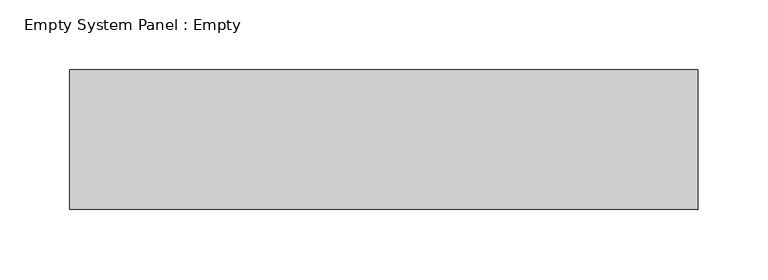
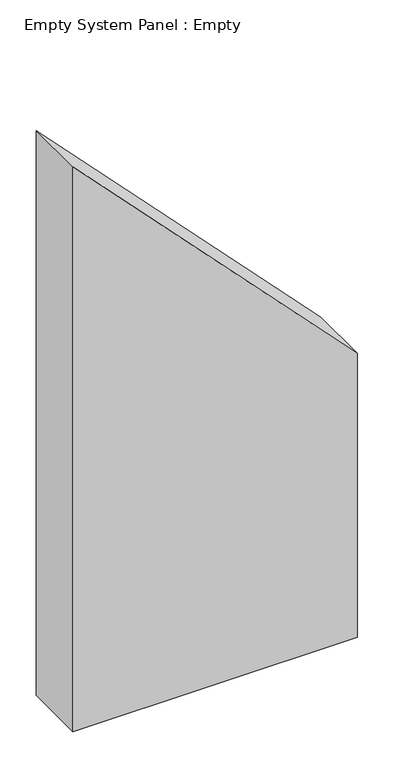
"""IFC4 building model written with IfcOpenShell, lengths in millimetres: plate geometry, Empty System Panel : Empty."""

from ifc_helpers import new_model, si_unit, frame, origin, place, context, project, spatial, polyline, outline, extrude, source, transform, mapped, element, save


def empty_system_panel_empty_43ef93b5(model_context):
    return source(origin(), model_context, "Body", "SweptSolid", [
        extrude(outline(polyline([(0.0, -225.0), (0.0, 225.0), (475.8319305, 225.0), (945.6457233, -225.0), (0.0, -225.0)])), frame((0.0, -50.0, 0.0), z_axis=(0.0, 1.0, 0.0), x_axis=(0.0, 0.0, 1.0)), (0.0, 0.0, 1.0), 100.0),
    ])


if __name__ == "__main__":
    model = new_model("IFC4")
    model_context = context("Model", 3, world=origin())
    ifc_project = project(units=[si_unit("LENGTHUNIT", "METRE", prefix="MILLI")], contexts=[model_context])
    site = spatial("IfcSite", under=ifc_project)
    building = spatial("IfcBuilding", under=site)
    placement = place(None, origin())
    empty_system_panel_empty_shape = empty_system_panel_empty_43ef93b5(model_context)
    element("IfcPlate", 1, ObjectType="Empty System Panel : Empty", at=placement, inside=building, context=model_context, shape_type="MappedRepresentation", body=[
        mapped(empty_system_panel_empty_shape, transform((0.0, 0.0, 0.0), x_axis=(1.0, 0.0, 0.0), y_axis=(0.0, 1.0, 0.0), z_axis=(0.0, 0.0, 1.0))),
    ])
    save(model, "model.ifc")
